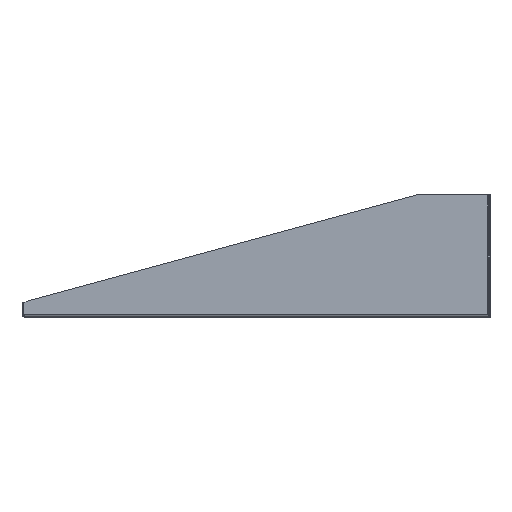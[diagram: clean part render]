
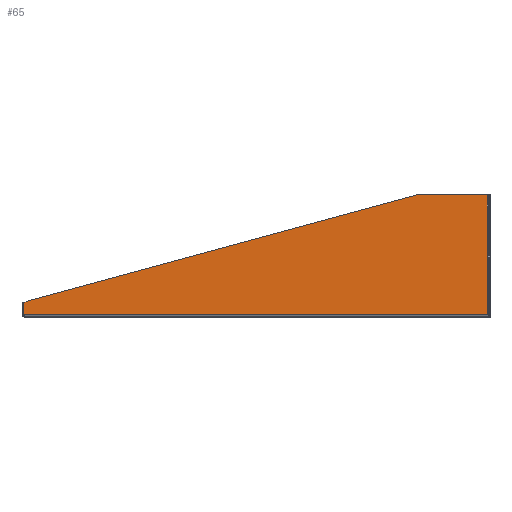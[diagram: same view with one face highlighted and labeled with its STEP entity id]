
A CAD part, left-side view. The second image highlights one B-rep face of the part: STEP entity #65.
In plain terms, the highlighted planar face has unit normal (-1, 0, 0).
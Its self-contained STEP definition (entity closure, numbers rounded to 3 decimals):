
#65 = ADVANCED_FACE( '', ( #1168 ), #1169, .F. );
#1168 = FACE_OUTER_BOUND( '', #3381, .T. );
#1169 = PLANE( '', #3382 );
#3381 = EDGE_LOOP( '', ( #6367, #6368, #6369, #6370, #6371, #6372, #6373, #6374 ) );
#3382 = AXIS2_PLACEMENT_3D( '', #6375, #6376, #6377 );
#6367 = ORIENTED_EDGE( '', *, *, #14141, .T. );
#6368 = ORIENTED_EDGE( '', *, *, #14135, .T. );
#6369 = ORIENTED_EDGE( '', *, *, #14142, .T. );
#6370 = ORIENTED_EDGE( '', *, *, #14143, .F. );
#6371 = ORIENTED_EDGE( '', *, *, #14144, .F. );
#6372 = ORIENTED_EDGE( '', *, *, #14145, .T. );
#6373 = ORIENTED_EDGE( '', *, *, #14146, .T. );
#6374 = ORIENTED_EDGE( '', *, *, #14147, .T. );
#6375 = CARTESIAN_POINT( '', ( -273.05, -253.086, 1.587 ) );
#6376 = DIRECTION( '', ( 1., 0., 0. ) );
#6377 = DIRECTION( '', ( 0., 0., -1. ) );
#14135 = EDGE_CURVE( '', #17598, #17596, #17599, .T. );
#14141 = EDGE_CURVE( '', #17608, #17598, #17609, .T. );
#14142 = EDGE_CURVE( '', #17596, #17610, #17611, .T. );
#14143 = EDGE_CURVE( '', #17612, #17610, #17613, .T. );
#14144 = EDGE_CURVE( '', #17614, #17612, #17615, .T. );
#14145 = EDGE_CURVE( '', #17614, #17616, #17617, .T. );
#14146 = EDGE_CURVE( '', #17616, #17618, #17619, .T. );
#14147 = EDGE_CURVE( '', #17618, #17608, #17620, .F. );
#17596 = VERTEX_POINT( '', #22428 );
#17598 = VERTEX_POINT( '', #22433 );
#17599 = CIRCLE( '', #22434, 1.397 );
#17608 = VERTEX_POINT( '', #22462 );
#17609 = LINE( '', #22463, #22464 );
#17610 = VERTEX_POINT( '', #22465 );
#17611 = LINE( '', #22466, #22467 );
#17612 = VERTEX_POINT( '', #22468 );
#17613 = LINE( '', #22469, #22470 );
#17614 = VERTEX_POINT( '', #22471 );
#17615 = LINE( '', #22472, #22473 );
#17616 = VERTEX_POINT( '', #22474 );
#17617 = LINE( '', #22475, #22476 );
#17618 = VERTEX_POINT( '', #22477 );
#17619 = LINE( '', #22478, #22479 );
#17620 = LINE( '', #22480, #22481 );
#22428 = CARTESIAN_POINT( '', ( -273.05, 250.714, 2.743 ) );
#22433 = CARTESIAN_POINT( '', ( -273.05, 251.255, 2.963 ) );
#22434 = AXIS2_PLACEMENT_3D( '', #28144, #28145, #28146 );
#22462 = CARTESIAN_POINT( '', ( -273.05, 251.255, 14.531 ) );
#22463 = CARTESIAN_POINT( '', ( -273.05, 251.255, 132.537 ) );
#22464 = VECTOR( '', #28155, 1000. );
#22465 = CARTESIAN_POINT( '', ( -273.05, -252.171, 2.743 ) );
#22466 = CARTESIAN_POINT( '', ( -273.05, 253.086, 2.743 ) );
#22467 = VECTOR( '', #28156, 1000. );
#22468 = CARTESIAN_POINT( '', ( -273.05, -252.171, 2.745 ) );
#22469 = CARTESIAN_POINT( '', ( -273.05, -252.171, 2.745 ) );
#22470 = VECTOR( '', #28157, 1000. );
#22471 = CARTESIAN_POINT( '', ( -273.05, -252.171, 132.537 ) );
#22472 = CARTESIAN_POINT( '', ( -273.05, -252.171, 2.745 ) );
#22473 = VECTOR( '', #28158, 1000. );
#22474 = CARTESIAN_POINT( '', ( -273.05, -174.981, 132.537 ) );
#22475 = CARTESIAN_POINT( '', ( -273.05, -253.086, 132.537 ) );
#22476 = VECTOR( '', #28159, 1000. );
#22477 = CARTESIAN_POINT( '', ( -273.05, 248.721, 17.064 ) );
#22478 = CARTESIAN_POINT( '', ( -273.05, -214.465, 143.298 ) );
#22479 = VECTOR( '', #28160, 1000. );
#22480 = CARTESIAN_POINT( '', ( -273.05, 248.721, 17.064 ) );
#22481 = VECTOR( '', #28161, 1000. );
#28144 = CARTESIAN_POINT( '', ( -273.05, 251.498, 1.587 ) );
#28145 = DIRECTION( '', ( 1., 0., 0. ) );
#28146 = DIRECTION( '', ( 0., 1., 0. ) );
#28155 = DIRECTION( '', ( 0., 0., -1. ) );
#28156 = DIRECTION( '', ( 0., -1., 0. ) );
#28157 = DIRECTION( '', ( 0., 0., -1. ) );
#28158 = DIRECTION( '', ( 0., 0., -1. ) );
#28159 = DIRECTION( '', ( 0., 1., 0. ) );
#28160 = DIRECTION( '', ( 0., 0.965, -0.263 ) );
#28161 = DIRECTION( '', ( 0., -0.707, 0.707 ) );
